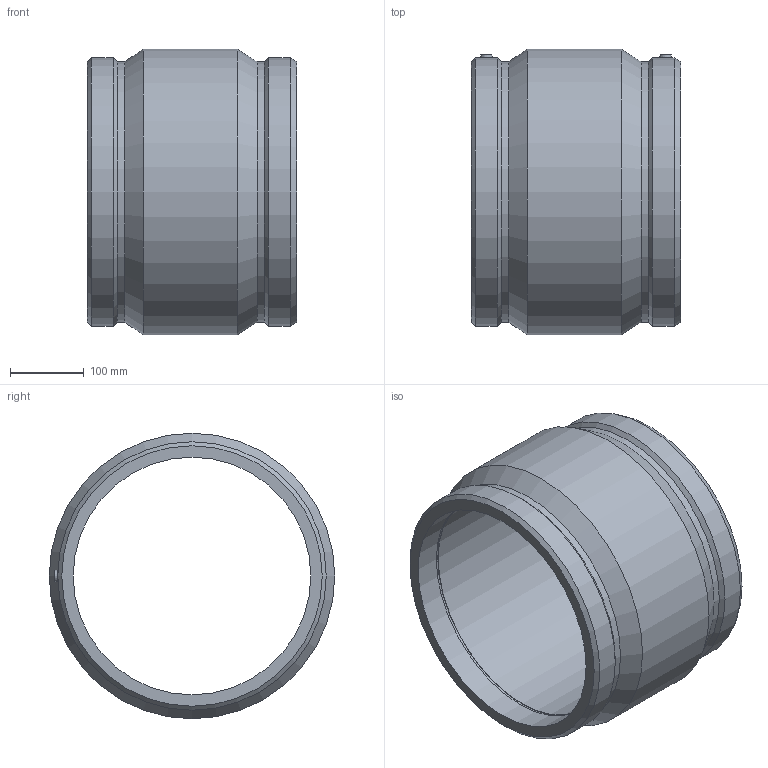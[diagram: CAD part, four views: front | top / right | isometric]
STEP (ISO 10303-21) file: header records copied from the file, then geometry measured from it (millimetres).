
FILE_DESCRIPTION(/* description */ ('PLASSON IPS COUPLER 12'''''),/* implementation_level */ '2;1');
FILE_NAME(/* name */ 'C:\Dropbox\KIMPROJECTS-Inventor 2019\99-16-3568-Processing Inch\ASTM ElectroFusion 2021\5901B\(_AS)5901B003120.ipt.stp',/* time_stamp */ '2021-08-30T09:48:29+03:00',/* author */ ('KIM'),/* organization */ (''),/* preprocessor_version */ 'ST-DEVELOPER v17.2',/* originating_system */ 'Autodesk Inventor 2019',/* authorisation */ '');
FILE_SCHEMA (('AUTOMOTIVE_DESIGN { 1 0 10303 214 3 1 1 }'));
Length unit declared in the file: inch
Products named in the file (1): *5901B003120
Bounding box: 284.48 x 388.62 x 388.62 mm (x, y, z)
Volume: 8198595 mm3; surface area: 682484.5 mm2
Topology: 1 solids, 1 shells, 32 faces, 76 edges, 54 vertices
Faces by surface type: cylinder 12, plane 10, cone 10
Full cylindrical faces by diameter (mm): 4 x2, 10 x2, 323.4 x3, 354.344 x2, 365.303 x2, 388.62 x1
Entity records: 1077 total; most frequent: CARTESIAN_POINT 231, DIRECTION 188, ORIENTED_EDGE 152, AXIS2_PLACEMENT_3D 83, EDGE_CURVE 76, VERTEX_POINT 54, CIRCLE 50, EDGE_LOOP 42
